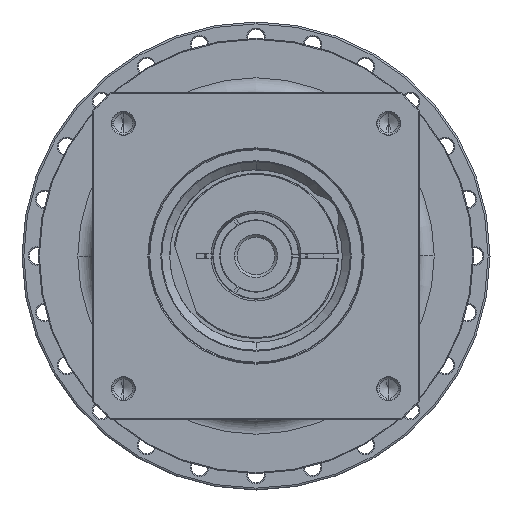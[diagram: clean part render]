
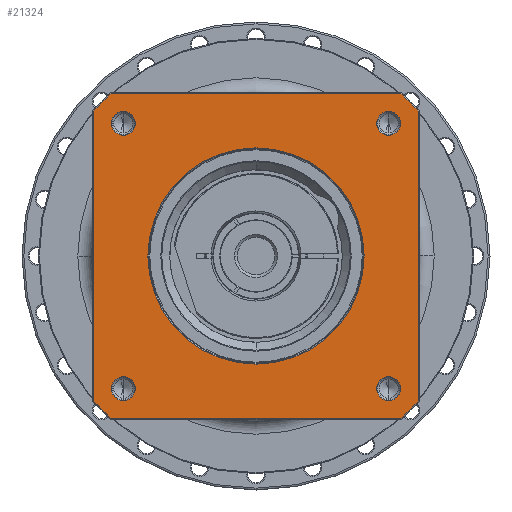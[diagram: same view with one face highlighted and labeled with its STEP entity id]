
A CAD part, left-side view. The second image highlights one B-rep face of the part: STEP entity #21324.
In plain terms, the highlighted planar face has unit normal (-1, 0, 0) as drawn and (0, 0, 1) by its records, which use the part's own axes.
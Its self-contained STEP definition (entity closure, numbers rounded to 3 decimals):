
#20075=CARTESIAN_POINT('',(0.,0.,
76.));
#20076=DIRECTION('',(0.,0.,-1.));
#20077=DIRECTION('',(0.,-1.,0.));
#20078=AXIS2_PLACEMENT_3D('',#20075,#20076,#20077);
#20080=CARTESIAN_POINT('',(0.,0.,
76.));
#20081=DIRECTION('',(0.,0.,-1.));
#20082=DIRECTION('',(0.,1.,0.));
#20083=AXIS2_PLACEMENT_3D('',#20080,#20081,#20082);
#20085=CARTESIAN_POINT('',(0.,0.,76.));
#20086=DIRECTION('',(0.,0.,1.));
#20087=DIRECTION('',(-0.746,-0.666,0.));
#20088=AXIS2_PLACEMENT_3D('',#20085,#20086,#20087);
#20100=DIRECTION('',(1.,0.,0.));
#20101=VECTOR('',#20100,154.58);
#20102=CARTESIAN_POINT('',(-77.29,-86.5,76.));
#20103=LINE('',#20102,#20101);
#20113=CARTESIAN_POINT('',(0.,0.,76.));
#20114=DIRECTION('',(0.,0.,1.));
#20115=DIRECTION('',(0.666,-0.746,0.));
#20116=AXIS2_PLACEMENT_3D('',#20113,#20114,#20115);
#20128=DIRECTION('',(0.,1.,0.));
#20129=VECTOR('',#20128,154.58);
#20130=CARTESIAN_POINT('',(86.5,-77.29,76.));
#20131=LINE('',#20130,#20129);
#20141=CARTESIAN_POINT('',(0.,0.,76.));
#20142=DIRECTION('',(0.,0.,1.));
#20143=DIRECTION('',(0.746,0.666,0.));
#20144=AXIS2_PLACEMENT_3D('',#20141,#20142,#20143);
#20156=DIRECTION('',(-1.,0.,0.));
#20157=VECTOR('',#20156,154.58);
#20158=CARTESIAN_POINT('',(77.29,86.5,76.));
#20159=LINE('',#20158,#20157);
#20164=CARTESIAN_POINT('',(0.,0.,76.));
#20165=DIRECTION('',(0.,0.,1.));
#20166=DIRECTION('',(-0.666,0.746,0.));
#20167=AXIS2_PLACEMENT_3D('',#20164,#20165,#20166);
#20184=DIRECTION('',(0.,-1.,0.));
#20185=VECTOR('',#20184,154.58);
#20186=CARTESIAN_POINT('',(-86.5,77.29,76.));
#20187=LINE('',#20186,#20185);
#20270=CARTESIAN_POINT('',(-70.711,70.711,76.));
#20271=DIRECTION('',(0.,0.,1.));
#20272=DIRECTION('',(-1.,0.,0.));
#20273=AXIS2_PLACEMENT_3D('',#20270,#20271,#20272);
#20288=CARTESIAN_POINT('',(-70.711,70.711,76.));
#20289=DIRECTION('',(0.,0.,1.));
#20290=DIRECTION('',(1.,0.,0.));
#20291=AXIS2_PLACEMENT_3D('',#20288,#20289,#20290);
#20324=CARTESIAN_POINT('',(70.711,70.711,76.));
#20325=DIRECTION('',(0.,0.,1.));
#20326=DIRECTION('',(-1.,0.,0.));
#20327=AXIS2_PLACEMENT_3D('',#20324,#20325,#20326);
#20342=CARTESIAN_POINT('',(70.711,70.711,76.));
#20343=DIRECTION('',(0.,0.,1.));
#20344=DIRECTION('',(1.,0.,0.));
#20345=AXIS2_PLACEMENT_3D('',#20342,#20343,#20344);
#20378=CARTESIAN_POINT('',(70.711,-70.711,76.));
#20379=DIRECTION('',(0.,0.,1.));
#20380=DIRECTION('',(-1.,0.,0.));
#20381=AXIS2_PLACEMENT_3D('',#20378,#20379,#20380);
#20396=CARTESIAN_POINT('',(70.711,-70.711,76.));
#20397=DIRECTION('',(0.,0.,1.));
#20398=DIRECTION('',(1.,0.,0.));
#20399=AXIS2_PLACEMENT_3D('',#20396,#20397,#20398);
#20432=CARTESIAN_POINT('',(-70.711,-70.711,76.));
#20433=DIRECTION('',(0.,0.,1.));
#20434=DIRECTION('',(-1.,0.,0.));
#20435=AXIS2_PLACEMENT_3D('',#20432,#20433,#20434);
#20450=CARTESIAN_POINT('',(-70.711,-70.711,76.));
#20451=DIRECTION('',(0.,0.,1.));
#20452=DIRECTION('',(1.,0.,0.));
#20453=AXIS2_PLACEMENT_3D('',#20450,#20451,#20452);
#20582=CARTESIAN_POINT('',(86.5,-77.29,76.));
#20583=CARTESIAN_POINT('',(86.5,77.29,76.));
#20584=VERTEX_POINT('',#20582);
#20585=VERTEX_POINT('',#20583);
#20590=CARTESIAN_POINT('',(77.29,-86.5,76.));
#20591=VERTEX_POINT('',#20590);
#20594=CARTESIAN_POINT('',(-77.29,-86.5,76.));
#20595=VERTEX_POINT('',#20594);
#20598=CARTESIAN_POINT('',(-86.5,-77.29,76.));
#20599=VERTEX_POINT('',#20598);
#20602=CARTESIAN_POINT('',(-86.5,77.29,76.));
#20603=VERTEX_POINT('',#20602);
#20606=CARTESIAN_POINT('',(-77.29,86.5,76.));
#20607=VERTEX_POINT('',#20606);
#20610=CARTESIAN_POINT('',(77.29,86.5,76.));
#20611=VERTEX_POINT('',#20610);
#20620=CARTESIAN_POINT('',(-77.111,70.711,76.));
#20621=CARTESIAN_POINT('',(-64.311,70.711,76.));
#20622=VERTEX_POINT('',#20620);
#20623=VERTEX_POINT('',#20621);
#20646=CARTESIAN_POINT('',(77.111,70.711,76.));
#20647=CARTESIAN_POINT('',(64.311,70.711,76.));
#20648=VERTEX_POINT('',#20646);
#20649=VERTEX_POINT('',#20647);
#20654=CARTESIAN_POINT('',(77.111,-70.711,76.));
#20655=CARTESIAN_POINT('',(64.311,-70.711,76.));
#20656=VERTEX_POINT('',#20654);
#20657=VERTEX_POINT('',#20655);
#20662=CARTESIAN_POINT('',(-64.311,-70.711,76.));
#20663=CARTESIAN_POINT('',(-77.111,-70.711,76.));
#20664=VERTEX_POINT('',#20662);
#20665=VERTEX_POINT('',#20663);
#20670=CARTESIAN_POINT('',(0.,-57.65,76.));
#20671=CARTESIAN_POINT('',(0.,57.65,
76.));
#20672=VERTEX_POINT('',#20670);
#20673=VERTEX_POINT('',#20671);
#21272=CARTESIAN_POINT('',(0.,0.,76.));
#21273=DIRECTION('',(0.,0.,1.));
#21274=DIRECTION('',(1.,0.,0.));
#21275=AXIS2_PLACEMENT_3D('',#21272,#21273,#21274);
#21276=PLANE('',#21275);
#21278=ORIENTED_EDGE('',*,*,#21277,.F.);
#21280=ORIENTED_EDGE('',*,*,#21279,.F.);
#21282=ORIENTED_EDGE('',*,*,#21281,.F.);
#21284=ORIENTED_EDGE('',*,*,#21283,.F.);
#21286=ORIENTED_EDGE('',*,*,#21285,.F.);
#21288=ORIENTED_EDGE('',*,*,#21287,.F.);
#21290=ORIENTED_EDGE('',*,*,#21289,.F.);
#21292=ORIENTED_EDGE('',*,*,#21291,.F.);
#21293=EDGE_LOOP('',(#21278,#21280,#21282,#21284,#21286,#21288,#21290,#21292));
#21294=FACE_OUTER_BOUND('',#21293,.F.);
#21295=ORIENTED_EDGE('',*,*,#21262,.F.);
#21297=ORIENTED_EDGE('',*,*,#21296,.F.);
#21298=EDGE_LOOP('',(#21295,#21297));
#21299=FACE_BOUND('',#21298,.F.);
#21301=ORIENTED_EDGE('',*,*,#21300,.T.);
#21303=ORIENTED_EDGE('',*,*,#21302,.T.);
#21304=EDGE_LOOP('',(#21301,#21303));
#21305=FACE_BOUND('',#21304,.F.);
#21307=ORIENTED_EDGE('',*,*,#21306,.T.);
#21309=ORIENTED_EDGE('',*,*,#21308,.T.);
#21310=EDGE_LOOP('',(#21307,#21309));
#21311=FACE_BOUND('',#21310,.F.);
#21313=ORIENTED_EDGE('',*,*,#21312,.T.);
#21315=ORIENTED_EDGE('',*,*,#21314,.T.);
#21316=EDGE_LOOP('',(#21313,#21315));
#21317=FACE_BOUND('',#21316,.F.);
#21319=ORIENTED_EDGE('',*,*,#21318,.T.);
#21321=ORIENTED_EDGE('',*,*,#21320,.T.);
#21322=EDGE_LOOP('',(#21319,#21321));
#21323=FACE_BOUND('',#21322,.F.);
#21324=ADVANCED_FACE('',(#21294,#21299,#21305,#21311,#21317,#21323),#21276,.T.);
#20079=CIRCLE('',#20078,57.65);
#20084=CIRCLE('',#20083,57.65);
#20089=CIRCLE('',#20088,116.);
#20117=CIRCLE('',#20116,116.);
#20145=CIRCLE('',#20144,116.);
#20168=CIRCLE('',#20167,116.);
#20274=CIRCLE('',#20273,6.4);
#20292=CIRCLE('',#20291,6.4);
#20328=CIRCLE('',#20327,6.4);
#20346=CIRCLE('',#20345,6.4);
#20382=CIRCLE('',#20381,6.4);
#20400=CIRCLE('',#20399,6.4);
#20436=CIRCLE('',#20435,6.4);
#20454=CIRCLE('',#20453,6.4);
#21262=EDGE_CURVE('',#20672,#20673,#20079,.T.);
#21277=EDGE_CURVE('',#20599,#20595,#20089,.T.);
#21279=EDGE_CURVE('',#20603,#20599,#20187,.T.);
#21281=EDGE_CURVE('',#20607,#20603,#20168,.T.);
#21283=EDGE_CURVE('',#20611,#20607,#20159,.T.);
#21285=EDGE_CURVE('',#20585,#20611,#20145,.T.);
#21287=EDGE_CURVE('',#20584,#20585,#20131,.T.);
#21289=EDGE_CURVE('',#20591,#20584,#20117,.T.);
#21291=EDGE_CURVE('',#20595,#20591,#20103,.T.);
#21296=EDGE_CURVE('',#20673,#20672,#20084,.T.);
#21300=EDGE_CURVE('',#20622,#20623,#20274,.T.);
#21302=EDGE_CURVE('',#20623,#20622,#20292,.T.);
#21306=EDGE_CURVE('',#20649,#20648,#20328,.T.);
#21308=EDGE_CURVE('',#20648,#20649,#20346,.T.);
#21312=EDGE_CURVE('',#20657,#20656,#20382,.T.);
#21314=EDGE_CURVE('',#20656,#20657,#20400,.T.);
#21318=EDGE_CURVE('',#20665,#20664,#20436,.T.);
#21320=EDGE_CURVE('',#20664,#20665,#20454,.T.);
